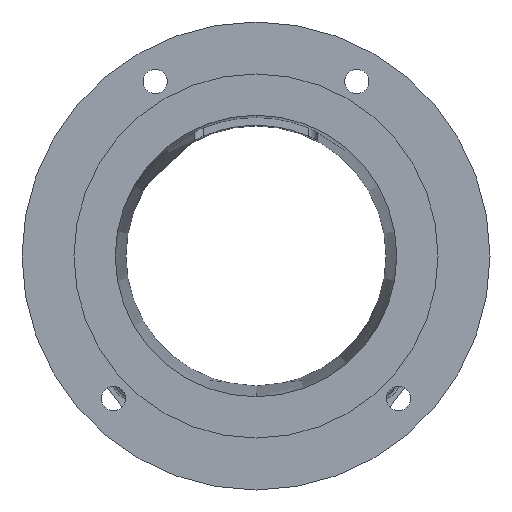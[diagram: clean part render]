
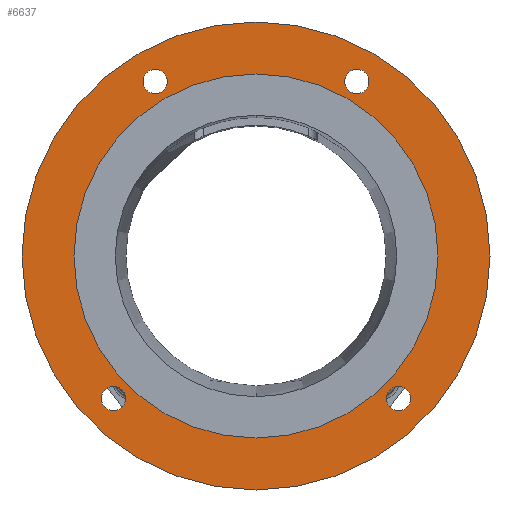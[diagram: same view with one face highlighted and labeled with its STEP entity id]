
A CAD part, front view. The second image highlights one B-rep face of the part: STEP entity #6637.
In plain terms, the highlighted planar face has unit normal (0, -1, 0).
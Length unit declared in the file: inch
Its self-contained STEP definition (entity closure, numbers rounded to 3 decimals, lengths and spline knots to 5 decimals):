
#57 = CARTESIAN_POINT ( 'NONE',  ( 2.74004, 0., -2.97441 ) ) ;
#200 = DIRECTION ( 'NONE',  ( 0., -1., 0. ) ) ;
#240 = DIRECTION ( 'NONE',  ( 0., 0., -1. ) ) ;
#242 = FACE_BOUND ( 'NONE', #7183, .T. ) ;
#253 = DIRECTION ( 'NONE',  ( 0., -1., 0. ) ) ;
#279 = CARTESIAN_POINT ( 'NONE',  ( -1.9375, 0., 3.35585 ) ) ;
#289 = CARTESIAN_POINT ( 'NONE',  ( -1.9375, 0., 3.12147 ) ) ;
#300 = DIRECTION ( 'NONE',  ( 0., -1., 0. ) ) ;
#351 = DIRECTION ( 'NONE',  ( 0., 0., -1. ) ) ;
#405 = CARTESIAN_POINT ( 'NONE',  ( 0., 0., 0. ) ) ;
#614 = AXIS2_PLACEMENT_3D ( 'NONE', #4922, #4902, #4853 ) ;
#635 = AXIS2_PLACEMENT_3D ( 'NONE', #2862, #2858, #2849 ) ;
#764 = EDGE_CURVE ( 'NONE', #1983, #3351, #3377, .T. ) ;
#903 = EDGE_LOOP ( 'NONE', ( #3706, #3993 ) ) ;
#999 = CARTESIAN_POINT ( 'NONE',  ( 1.9375, 0., 3.59022 ) ) ;
#1075 = CARTESIAN_POINT ( 'NONE',  ( 0., 0., 3.501 ) ) ;
#1126 = ORIENTED_EDGE ( 'NONE', *, *, #3528, .F. ) ;
#1254 = ORIENTED_EDGE ( 'NONE', *, *, #2227, .F. ) ;
#1411 = AXIS2_PLACEMENT_3D ( 'NONE', #2541, #2526, #2522 ) ;
#1429 = VERTEX_POINT ( 'NONE', #1075 ) ;
#1440 = EDGE_CURVE ( 'NONE', #1429, #4531, #7029, .T. ) ;
#1446 = VERTEX_POINT ( 'NONE', #999 ) ;
#1550 = CARTESIAN_POINT ( 'NONE',  ( 1.9375, 0., 3.12147 ) ) ;
#1806 = FACE_BOUND ( 'NONE', #6889, .T. ) ;
#1983 = VERTEX_POINT ( 'NONE', #4247 ) ;
#2091 = EDGE_CURVE ( 'NONE', #3351, #1983, #7207, .T. ) ;
#2138 = DIRECTION ( 'NONE',  ( 0., -1., 0. ) ) ;
#2181 = CARTESIAN_POINT ( 'NONE',  ( -2.74004, 0., -2.74004 ) ) ;
#2227 = EDGE_CURVE ( 'NONE', #1446, #2998, #6526, .T. ) ;
#2283 = EDGE_CURVE ( 'NONE', #3743, #3929, #4737, .T. ) ;
#2348 = CARTESIAN_POINT ( 'NONE',  ( 0., 0., 0. ) ) ;
#2353 = DIRECTION ( 'NONE',  ( 0., -1., 0. ) ) ;
#2354 = DIRECTION ( 'NONE',  ( 0., 0., -1. ) ) ;
#2363 = AXIS2_PLACEMENT_3D ( 'NONE', #3694, #3685, #3670 ) ;
#2374 = AXIS2_PLACEMENT_3D ( 'NONE', #279, #253, #240 ) ;
#2459 = EDGE_LOOP ( 'NONE', ( #4986, #6353 ) ) ;
#2522 = DIRECTION ( 'NONE',  ( 0., 0., -1. ) ) ;
#2526 = DIRECTION ( 'NONE',  ( 0., -1., 0. ) ) ;
#2541 = CARTESIAN_POINT ( 'NONE',  ( 2.74004, 0., -2.74004 ) ) ;
#2805 = CARTESIAN_POINT ( 'NONE',  ( 0., 0., -4.5 ) ) ;
#2849 = DIRECTION ( 'NONE',  ( 0., 0., -1. ) ) ;
#2858 = DIRECTION ( 'NONE',  ( 0., -1., 0. ) ) ;
#2862 = CARTESIAN_POINT ( 'NONE',  ( 1.9375, 0., 3.35585 ) ) ;
#2907 = AXIS2_PLACEMENT_3D ( 'NONE', #3420, #3235, #5358 ) ;
#2998 = VERTEX_POINT ( 'NONE', #1550 ) ;
#3057 = CARTESIAN_POINT ( 'NONE',  ( 0., 0., -3.501 ) ) ;
#3093 = DIRECTION ( 'NONE',  ( 0., 0., 1. ) ) ;
#3158 = CARTESIAN_POINT ( 'NONE',  ( -4.5, 0., 0. ) ) ;
#3169 = PLANE ( 'NONE',  #5907 ) ;
#3186 = CARTESIAN_POINT ( 'NONE',  ( -2.74004, 0., -2.50566 ) ) ;
#3200 = AXIS2_PLACEMENT_3D ( 'NONE', #7028, #200, #4877 ) ;
#3235 = DIRECTION ( 'NONE',  ( 0., -1., 0. ) ) ;
#3351 = VERTEX_POINT ( 'NONE', #2805 ) ;
#3364 = FACE_BOUND ( 'NONE', #5905, .T. ) ;
#3377 = CIRCLE ( 'NONE', #7319, 4.5 ) ;
#3420 = CARTESIAN_POINT ( 'NONE',  ( 2.74004, 0., -2.74004 ) ) ;
#3433 = DIRECTION ( 'NONE',  ( 0., 1., 0. ) ) ;
#3519 = DIRECTION ( 'NONE',  ( 0., 0., -1. ) ) ;
#3528 = EDGE_CURVE ( 'NONE', #5336, #4021, #5718, .T. ) ;
#3568 = CIRCLE ( 'NONE', #2907, 0.23438 ) ;
#3572 = AXIS2_PLACEMENT_3D ( 'NONE', #405, #300, #351 ) ;
#3575 = DIRECTION ( 'NONE',  ( 0., -1., 0. ) ) ;
#3596 = CARTESIAN_POINT ( 'NONE',  ( -1.9375, 0., 3.35585 ) ) ;
#3664 = CIRCLE ( 'NONE', #6199, 0.23438 ) ;
#3670 = DIRECTION ( 'NONE',  ( 0., 0., -1. ) ) ;
#3685 = DIRECTION ( 'NONE',  ( 0., -1., 0. ) ) ;
#3694 = CARTESIAN_POINT ( 'NONE',  ( 0., 0., 0. ) ) ;
#3706 = ORIENTED_EDGE ( 'NONE', *, *, #2091, .T. ) ;
#3729 = CARTESIAN_POINT ( 'NONE',  ( -1.9375, 0., 3.59022 ) ) ;
#3743 = VERTEX_POINT ( 'NONE', #6671 ) ;
#3929 = VERTEX_POINT ( 'NONE', #57 ) ;
#3976 = VERTEX_POINT ( 'NONE', #3186 ) ;
#3984 = ORIENTED_EDGE ( 'NONE', *, *, #6110, .F. ) ;
#3993 = ORIENTED_EDGE ( 'NONE', *, *, #764, .T. ) ;
#4021 = VERTEX_POINT ( 'NONE', #289 ) ;
#4179 = DIRECTION ( 'NONE',  ( 0., 0., -1. ) ) ;
#4247 = CARTESIAN_POINT ( 'NONE',  ( 0., 0., 4.5 ) ) ;
#4430 = EDGE_CURVE ( 'NONE', #4021, #5336, #4817, .T. ) ;
#4507 = VERTEX_POINT ( 'NONE', #7064 ) ;
#4531 = VERTEX_POINT ( 'NONE', #3057 ) ;
#4699 = ORIENTED_EDGE ( 'NONE', *, *, #4788, .F. ) ;
#4707 = FACE_OUTER_BOUND ( 'NONE', #903, .T. ) ;
#4737 = CIRCLE ( 'NONE', #1411, 0.23438 ) ;
#4788 = EDGE_CURVE ( 'NONE', #2998, #1446, #5851, .T. ) ;
#4817 = CIRCLE ( 'NONE', #6104, 0.23438 ) ;
#4853 = DIRECTION ( 'NONE',  ( 0., 0., -1. ) ) ;
#4877 = DIRECTION ( 'NONE',  ( 0., 0., -1. ) ) ;
#4902 = DIRECTION ( 'NONE',  ( 0., -1., 0. ) ) ;
#4922 = CARTESIAN_POINT ( 'NONE',  ( 0., 0., 0. ) ) ;
#4986 = ORIENTED_EDGE ( 'NONE', *, *, #5312, .F. ) ;
#5016 = DIRECTION ( 'NONE',  ( 0., 0., -1. ) ) ;
#5043 = EDGE_CURVE ( 'NONE', #3976, #4507, #3664, .T. ) ;
#5097 = DIRECTION ( 'NONE',  ( 0., -1., 0. ) ) ;
#5117 = CARTESIAN_POINT ( 'NONE',  ( -2.74004, 0., -2.74004 ) ) ;
#5217 = ORIENTED_EDGE ( 'NONE', *, *, #6466, .F. ) ;
#5312 = EDGE_CURVE ( 'NONE', #3929, #3743, #3568, .T. ) ;
#5336 = VERTEX_POINT ( 'NONE', #3729 ) ;
#5358 = DIRECTION ( 'NONE',  ( 0., 0., -1. ) ) ;
#5530 = ORIENTED_EDGE ( 'NONE', *, *, #5043, .F. ) ;
#5677 = ORIENTED_EDGE ( 'NONE', *, *, #1440, .F. ) ;
#5718 = CIRCLE ( 'NONE', #2374, 0.23438 ) ;
#5851 = CIRCLE ( 'NONE', #3200, 0.23438 ) ;
#5891 = AXIS2_PLACEMENT_3D ( 'NONE', #2181, #2138, #4179 ) ;
#5905 = EDGE_LOOP ( 'NONE', ( #4699, #1254 ) ) ;
#5907 = AXIS2_PLACEMENT_3D ( 'NONE', #3158, #3433, #3093 ) ;
#6104 = AXIS2_PLACEMENT_3D ( 'NONE', #3596, #3575, #3519 ) ;
#6110 = EDGE_CURVE ( 'NONE', #4507, #3976, #7287, .T. ) ;
#6151 = FACE_BOUND ( 'NONE', #6999, .T. ) ;
#6199 = AXIS2_PLACEMENT_3D ( 'NONE', #5117, #5097, #5016 ) ;
#6310 = FACE_BOUND ( 'NONE', #2459, .T. ) ;
#6353 = ORIENTED_EDGE ( 'NONE', *, *, #2283, .F. ) ;
#6466 = EDGE_CURVE ( 'NONE', #4531, #1429, #7188, .T. ) ;
#6526 = CIRCLE ( 'NONE', #635, 0.23438 ) ;
#6637 = ADVANCED_FACE ( 'NONE', ( #1806, #3364, #6310, #242, #6151, #4707 ), #3169, .F. ) ;
#6671 = CARTESIAN_POINT ( 'NONE',  ( 2.74004, 0., -2.50566 ) ) ;
#6821 = ORIENTED_EDGE ( 'NONE', *, *, #4430, .F. ) ;
#6889 = EDGE_LOOP ( 'NONE', ( #6821, #1126 ) ) ;
#6999 = EDGE_LOOP ( 'NONE', ( #5217, #5677 ) ) ;
#7028 = CARTESIAN_POINT ( 'NONE',  ( 1.9375, 0., 3.35585 ) ) ;
#7029 = CIRCLE ( 'NONE', #3572, 3.501 ) ;
#7064 = CARTESIAN_POINT ( 'NONE',  ( -2.74004, 0., -2.97441 ) ) ;
#7183 = EDGE_LOOP ( 'NONE', ( #3984, #5530 ) ) ;
#7188 = CIRCLE ( 'NONE', #614, 3.501 ) ;
#7207 = CIRCLE ( 'NONE', #2363, 4.5 ) ;
#7287 = CIRCLE ( 'NONE', #5891, 0.23438 ) ;
#7319 = AXIS2_PLACEMENT_3D ( 'NONE', #2348, #2353, #2354 ) ;
